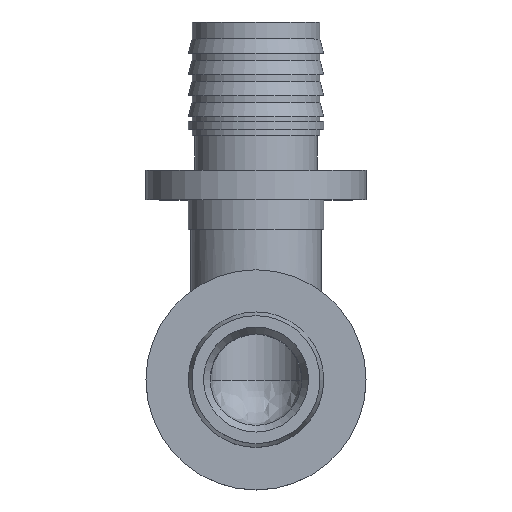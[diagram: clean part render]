
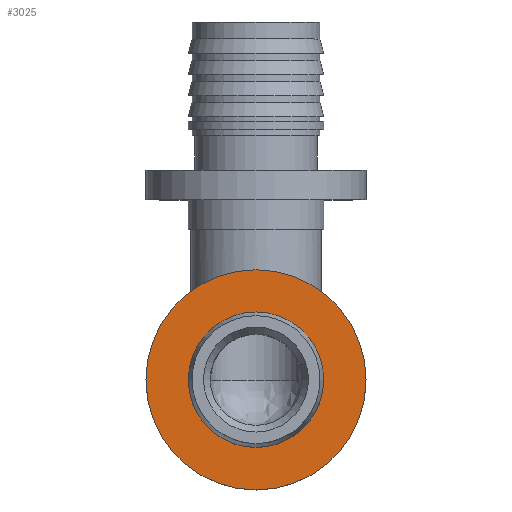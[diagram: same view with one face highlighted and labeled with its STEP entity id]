
A CAD part, top view. The second image highlights one B-rep face of the part: STEP entity #3025.
In plain terms, the highlighted planar face has unit normal (0, 0, 1).
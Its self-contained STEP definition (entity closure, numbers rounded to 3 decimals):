
#46=PLANE('',#3249);
#259=FACE_OUTER_BOUND('',#598,.T.);
#348=CIRCLE('',#3158,7.25);
#349=CIRCLE('',#3159,7.25);
#415=CIRCLE('',#3250,13.);
#416=CIRCLE('',#3251,13.);
#463=FACE_BOUND('',#599,.T.);
#598=EDGE_LOOP('',(#2585,#2586));
#599=EDGE_LOOP('',(#2587,#2588));
#1360=VERTEX_POINT('',#6345);
#1361=VERTEX_POINT('',#6346);
#1427=VERTEX_POINT('',#6522);
#1428=VERTEX_POINT('',#6523);
#1761=EDGE_CURVE('',#1360,#1361,#348,.T.);
#1763=EDGE_CURVE('',#1361,#1360,#349,.T.);
#1846=EDGE_CURVE('',#1427,#1428,#415,.T.);
#1847=EDGE_CURVE('',#1428,#1427,#416,.T.);
#2585=ORIENTED_EDGE('',*,*,#1846,.F.);
#2586=ORIENTED_EDGE('',*,*,#1847,.F.);
#2587=ORIENTED_EDGE('',*,*,#1761,.F.);
#2588=ORIENTED_EDGE('',*,*,#1763,.F.);
#3025=ADVANCED_FACE('',(#259,#463),#46,.T.);
#3158=AXIS2_PLACEMENT_3D('',#6347,#3539,#3540);
#3159=AXIS2_PLACEMENT_3D('',#6349,#3542,#3543);
#3249=AXIS2_PLACEMENT_3D('',#6521,#3739,#3740);
#3250=AXIS2_PLACEMENT_3D('',#6524,#3741,#3742);
#3251=AXIS2_PLACEMENT_3D('',#6525,#3743,#3744);
#3539=DIRECTION('center_axis',(0.,0.,1.));
#3540=DIRECTION('ref_axis',(1.,0.,0.));
#3542=DIRECTION('center_axis',(0.,0.,1.));
#3543=DIRECTION('ref_axis',(1.,0.,0.));
#3739=DIRECTION('center_axis',(0.,0.,1.));
#3740=DIRECTION('ref_axis',(1.,0.,0.));
#3741=DIRECTION('center_axis',(0.,0.,-1.));
#3742=DIRECTION('ref_axis',(1.,0.,0.));
#3743=DIRECTION('center_axis',(0.,0.,-1.));
#3744=DIRECTION('ref_axis',(1.,0.,0.));
#6345=CARTESIAN_POINT('',(0.,-35.05,24.8));
#6346=CARTESIAN_POINT('',(0.,-49.55,24.8));
#6347=CARTESIAN_POINT('Origin',(0.,-42.3,24.8));
#6349=CARTESIAN_POINT('Origin',(0.,-42.3,24.8));
#6521=CARTESIAN_POINT('Origin',(0.,-29.3,24.8));
#6522=CARTESIAN_POINT('',(0.,-29.3,24.8));
#6523=CARTESIAN_POINT('',(0.,-55.3,24.8));
#6524=CARTESIAN_POINT('Origin',(0.,-42.3,24.8));
#6525=CARTESIAN_POINT('Origin',(0.,-42.3,24.8));
